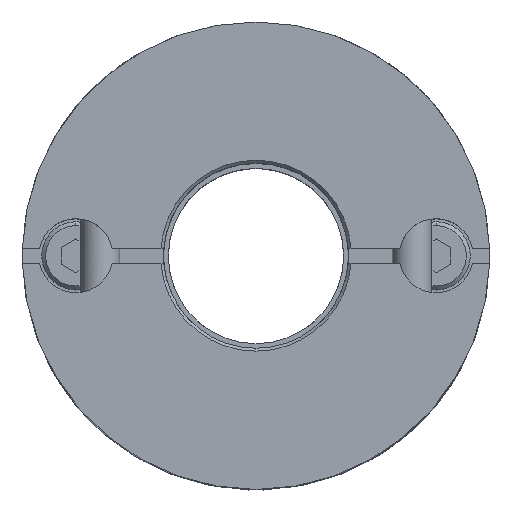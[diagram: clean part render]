
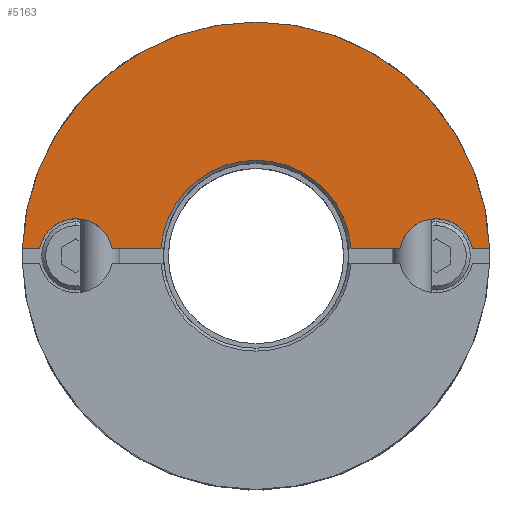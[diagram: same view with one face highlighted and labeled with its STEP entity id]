
A CAD part, top view. The second image highlights one B-rep face of the part: STEP entity #5163.
In plain terms, the highlighted planar face has unit normal (0, 0, 1).
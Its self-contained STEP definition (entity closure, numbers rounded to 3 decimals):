
#1951=CARTESIAN_POINT('',(0.,9.8,19.3));
#1952=VERTEX_POINT('',#1951);
#1961=CARTESIAN_POINT('',(-9.771,0.75,19.3));
#1962=VERTEX_POINT('',#1961);
#1963=CARTESIAN_POINT('',(0.,0.,19.3));
#1964=DIRECTION('',(0.0,0.0,1.0));
#1965=DIRECTION('',(0.0,-1.0,0.0));
#1966=AXIS2_PLACEMENT_3D('',#1963,#1964,#1965);
#1967=CIRCLE('',#1966,9.8);
#1968=EDGE_CURVE('',#1952,#1962,#1967,.T.);
#2140=CARTESIAN_POINT('',(0.,24.,19.3));
#2141=VERTEX_POINT('',#2140);
#2225=CARTESIAN_POINT('',(-23.988,0.75,19.3));
#2226=VERTEX_POINT('',#2225);
#2233=CARTESIAN_POINT('',(0.,0.,19.3));
#2234=DIRECTION('',(0.0,0.0,-1.0));
#2235=DIRECTION('',(0.0,1.0,0.0));
#2236=AXIS2_PLACEMENT_3D('',#2233,#2234,#2235);
#2237=CIRCLE('',#2236,24.0);
#2238=EDGE_CURVE('',#2226,#2141,#2237,.T.);
#2669=CARTESIAN_POINT('',(-18.5,3.8,19.3));
#2670=VERTEX_POINT('',#2669);
#2679=CARTESIAN_POINT('',(-22.225,0.75,19.3));
#2680=VERTEX_POINT('',#2679);
#2681=CARTESIAN_POINT('',(-18.5,0.,19.3));
#2682=DIRECTION('',(0.0,0.0,-1.0));
#2683=DIRECTION('',(0.0,1.0,0.0));
#2684=AXIS2_PLACEMENT_3D('',#2681,#2682,#2683);
#2685=CIRCLE('',#2684,3.8);
#2686=EDGE_CURVE('',#2680,#2670,#2685,.T.);
#2955=CARTESIAN_POINT('',(18.5,3.8,19.3));
#2956=VERTEX_POINT('',#2955);
#2965=CARTESIAN_POINT('',(14.775,0.75,19.3));
#2966=VERTEX_POINT('',#2965);
#2967=CARTESIAN_POINT('',(18.5,0.,19.3));
#2968=DIRECTION('',(0.0,0.0,-1.0));
#2969=DIRECTION('',(0.0,1.0,0.0));
#2970=AXIS2_PLACEMENT_3D('',#2967,#2968,#2969);
#2971=CIRCLE('',#2970,3.8);
#2972=EDGE_CURVE('',#2966,#2956,#2971,.T.);
#4022=CARTESIAN_POINT('',(22.225,0.75,19.3));
#4023=VERTEX_POINT('',#4022);
#4030=CARTESIAN_POINT('',(18.5,0.,19.3));
#4031=DIRECTION('',(0.0,0.0,-1.0));
#4032=DIRECTION('',(0.0,1.0,0.0));
#4033=AXIS2_PLACEMENT_3D('',#4030,#4031,#4032);
#4034=CIRCLE('',#4033,3.8);
#4035=EDGE_CURVE('',#2956,#4023,#4034,.T.);
#4290=CARTESIAN_POINT('',(-14.775,0.75,19.3));
#4291=VERTEX_POINT('',#4290);
#4298=CARTESIAN_POINT('',(-18.5,0.,19.3));
#4299=DIRECTION('',(0.0,0.0,-1.0));
#4300=DIRECTION('',(0.0,1.0,0.0));
#4301=AXIS2_PLACEMENT_3D('',#4298,#4299,#4300);
#4302=CIRCLE('',#4301,3.8);
#4303=EDGE_CURVE('',#2670,#4291,#4302,.T.);
#4400=CARTESIAN_POINT('',(-14.775,0.75,19.3));
#4401=DIRECTION('',(1.0,0.0,0.0));
#4402=VECTOR('',#4401,5.003);
#4403=LINE('',#4400,#4402);
#4404=EDGE_CURVE('',#4291,#1962,#4403,.T.);
#4467=CARTESIAN_POINT('',(9.771,0.75,19.3));
#4468=VERTEX_POINT('',#4467);
#4469=CARTESIAN_POINT('',(9.771,0.75,19.3));
#4470=DIRECTION('',(1.0,0.0,0.0));
#4471=VECTOR('',#4470,5.003);
#4472=LINE('',#4469,#4471);
#4473=EDGE_CURVE('',#4468,#2966,#4472,.T.);
#5042=CARTESIAN_POINT('',(23.988,0.75,19.3));
#5043=VERTEX_POINT('',#5042);
#5050=CARTESIAN_POINT('',(22.225,0.75,19.3));
#5051=DIRECTION('',(1.0,0.0,0.0));
#5052=VECTOR('',#5051,1.763);
#5053=LINE('',#5050,#5052);
#5054=EDGE_CURVE('',#4023,#5043,#5053,.T.);
#5127=CARTESIAN_POINT('',(0.,2.182,19.3));
#5128=DIRECTION('',(0.0,0.0,1.0));
#5129=DIRECTION('',(0.0,1.0,0.0));
#5130=AXIS2_PLACEMENT_3D('',#5127,#5128,#5129);
#5131=PLANE('',#5130);
#5132=ORIENTED_EDGE('',*,*,#2972,.T.);
#5133=ORIENTED_EDGE('',*,*,#4035,.T.);
#5134=ORIENTED_EDGE('',*,*,#5054,.T.);
#5135=CARTESIAN_POINT('',(0.,0.,19.3));
#5136=DIRECTION('',(0.0,0.0,-1.0));
#5137=DIRECTION('',(0.0,1.0,0.0));
#5138=AXIS2_PLACEMENT_3D('',#5135,#5136,#5137);
#5139=CIRCLE('',#5138,24.0);
#5140=EDGE_CURVE('',#2141,#5043,#5139,.T.);
#5141=ORIENTED_EDGE('',*,*,#5140,.F.);
#5142=ORIENTED_EDGE('',*,*,#2238,.F.);
#5143=CARTESIAN_POINT('',(-23.988,0.75,19.3));
#5144=DIRECTION('',(1.0,0.0,0.0));
#5145=VECTOR('',#5144,1.763);
#5146=LINE('',#5143,#5145);
#5147=EDGE_CURVE('',#2226,#2680,#5146,.T.);
#5148=ORIENTED_EDGE('',*,*,#5147,.T.);
#5149=ORIENTED_EDGE('',*,*,#2686,.T.);
#5150=ORIENTED_EDGE('',*,*,#4303,.T.);
#5151=ORIENTED_EDGE('',*,*,#4404,.T.);
#5152=ORIENTED_EDGE('',*,*,#1968,.F.);
#5153=CARTESIAN_POINT('',(0.,0.,19.3));
#5154=DIRECTION('',(0.0,0.0,1.0));
#5155=DIRECTION('',(0.0,-1.0,0.0));
#5156=AXIS2_PLACEMENT_3D('',#5153,#5154,#5155);
#5157=CIRCLE('',#5156,9.8);
#5158=EDGE_CURVE('',#4468,#1952,#5157,.T.);
#5159=ORIENTED_EDGE('',*,*,#5158,.F.);
#5160=ORIENTED_EDGE('',*,*,#4473,.T.);
#5161=EDGE_LOOP('',(#5132,#5133,#5134,#5141,#5142,#5148,#5149,#5150,#5151,#5152,#5159,#5160));
#5162=FACE_OUTER_BOUND('',#5161,.T.);
#5163=ADVANCED_FACE('',(#5162),#5131,.T.);
